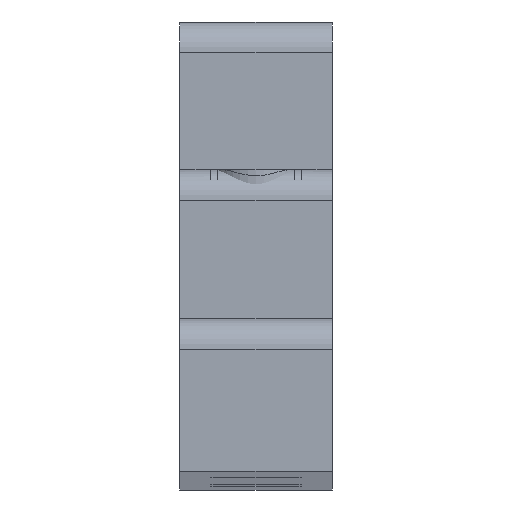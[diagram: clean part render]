
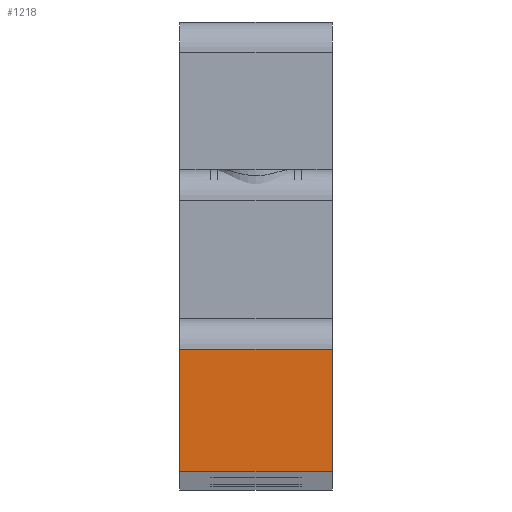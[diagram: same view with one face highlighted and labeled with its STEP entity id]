
A CAD part, top view. The second image highlights one B-rep face of the part: STEP entity #1218.
In plain terms, the highlighted planar face has unit normal (0, 0, 1).
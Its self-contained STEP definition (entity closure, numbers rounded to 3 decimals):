
#14=DIRECTION('',(0.,1.,0.));
#15=VECTOR('',#14,4.);
#16=CARTESIAN_POINT('',(1346.075,-74.,175.));
#17=LINE('',#16,#15);
#320=DIRECTION('',(0.,1.,0.));
#321=VECTOR('',#320,4.);
#322=CARTESIAN_POINT('',(1341.075,-74.,175.));
#323=LINE('',#322,#321);
#475=DIRECTION('',(1.,0.,0.));
#476=VECTOR('',#475,5.);
#477=CARTESIAN_POINT('',(1341.075,-70.,175.));
#478=LINE('',#477,#476);
#479=DIRECTION('',(-1.,0.,0.));
#480=VECTOR('',#479,5.);
#481=CARTESIAN_POINT('',(1346.075,-74.,175.));
#482=LINE('',#481,#480);
#504=CARTESIAN_POINT('',(1346.075,-74.,175.));
#506=VERTEX_POINT('',#504);
#516=CARTESIAN_POINT('',(1341.075,-74.,175.));
#518=VERTEX_POINT('',#516);
#624=CARTESIAN_POINT('',(1346.075,-70.,175.));
#626=VERTEX_POINT('',#624);
#627=CARTESIAN_POINT('',(1341.075,-70.,175.));
#628=VERTEX_POINT('',#627);
#1207=CARTESIAN_POINT('',(1346.075,-74.,175.));
#1208=DIRECTION('',(0.,0.,1.));
#1209=DIRECTION('',(0.,1.,0.));
#1210=AXIS2_PLACEMENT_3D('',#1207,#1208,#1209);
#1211=PLANE('',#1210);
#1212=ORIENTED_EDGE('',*,*,#1200,.T.);
#1213=ORIENTED_EDGE('',*,*,#654,.F.);
#1214=ORIENTED_EDGE('',*,*,#821,.T.);
#1215=ORIENTED_EDGE('',*,*,#909,.T.);
#1216=EDGE_LOOP('',(#1212,#1213,#1214,#1215));
#1217=FACE_OUTER_BOUND('',#1216,.F.);
#1218=ADVANCED_FACE('',(#1217),#1211,.T.);
#654=EDGE_CURVE('',#506,#626,#17,.T.);
#821=EDGE_CURVE('',#506,#518,#482,.T.);
#909=EDGE_CURVE('',#518,#628,#323,.T.);
#1200=EDGE_CURVE('',#628,#626,#478,.T.);
